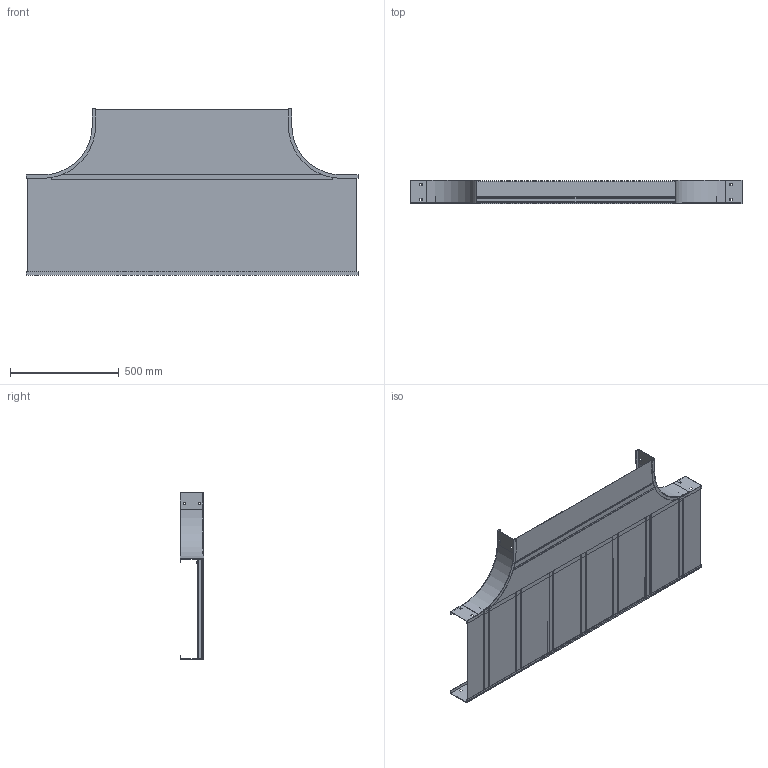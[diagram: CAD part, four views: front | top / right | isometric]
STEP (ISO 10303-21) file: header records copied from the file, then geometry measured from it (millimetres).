
FILE_DESCRIPTION((''),'2;1');
FILE_NAME('AUF41836SET12_ASM','2010-02-02T',('erouzier'),(''),'PRO/ENGINEER BY PARAMETRIC TECHNOLOGY CORPORATION, 2008510','PRO/ENGINEER BY PARAMETRIC TECHNOLOGY CORPORATION, 2008510','');
FILE_SCHEMA(('CONFIG_CONTROL_DESIGN'));
Length unit declared in the file: inch
Products named in the file (13): CDS001319-4-90-9-I; CDS013841-4-60; CDS000495_GEN_AF7; CDS002159L18_AF10; CDS002159L18_AF11; CDS002159L18_AF12; CDS002159L18_AF13; CDS002159L18_AF14; CDS002159L18_AF15; CDS002159L18_AF16; CDS002159L36_AF1; CDS004382-18-12-36; AUF41836SET12_ASM
Assembly tree (13 placements, depth 2):
  AUF41836SET12_ASM
    CDS001319-4-90-9-I  x2
    CDS013841-4-60
    CDS000495_GEN_AF7
    CDS002159L18_AF10
    CDS002159L18_AF11
    CDS002159L18_AF12
    CDS002159L18_AF13
    CDS002159L18_AF14
    CDS002159L18_AF15
    CDS002159L18_AF16
    CDS002159L36_AF1
    CDS004382-18-12-36
Bounding box: 1528.57 x 106.05 x 766.57 mm (x, y, z)
Volume: 2570752.1 mm3; surface area: 3827019.4 mm2
Topology: 13 solids, 13 shells, 356 faces, 990 edges, 660 vertices
Faces by surface type: plane 258, cylinder 98
Entity records: 10625 total; most frequent: CARTESIAN_POINT 1838, ORIENTED_EDGE 1788, DIRECTION 1778, EDGE_CURVE 894, VECTOR 706, LINE 706, VERTEX_POINT 596, AXIS2_PLACEMENT_3D 536
